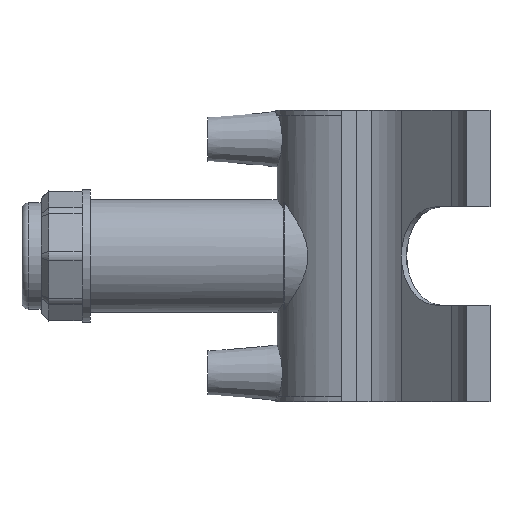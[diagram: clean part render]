
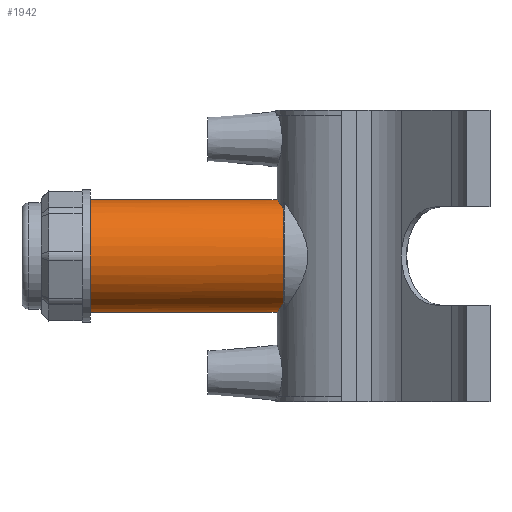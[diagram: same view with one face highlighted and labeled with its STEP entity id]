
A CAD part, left-side view. The second image highlights one B-rep face of the part: STEP entity #1942.
In plain terms, the highlighted cylindrical face has radius 19.324 mm (diameter 38.648 mm), a full revolution.
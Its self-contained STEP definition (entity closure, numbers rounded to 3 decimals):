
#180=FACE_OUTER_BOUND('',#300,.T.);
#300=EDGE_LOOP('',(#1627,#1628,#1629,#1630,#1631,#1632,#1633,#1634,#1635,
#1636,#1637));
#348=B_SPLINE_CURVE_WITH_KNOTS('',3,(#2867,#2868,#2869,#2870,#2871,#2872,
#2873,#2874),.UNSPECIFIED.,.F.,.F.,(4,2,2,4),(1.968,2.296,
2.675,3.054),.UNSPECIFIED.);
#349=B_SPLINE_CURVE_WITH_KNOTS('',3,(#2876,#2877,#2878,#2879,#2880,#2881,
#2882,#2883),.UNSPECIFIED.,.F.,.F.,(4,2,2,4),(3.054,3.433,
3.811,4.14),.UNSPECIFIED.);
#356=B_SPLINE_CURVE_WITH_KNOTS('',3,(#2939,#2940,#2941,#2942,#2943,#2944,
#2945,#2946,#2947,#2948,#2949,#2950,#2951,#2952),.UNSPECIFIED.,.F.,.F.,
(4,2,2,2,2,2,4),(8.075,8.403,8.782,9.161,
9.54,9.919,10.247),.UNSPECIFIED.);
#368=B_SPLINE_CURVE_WITH_KNOTS('',3,(#3448,#3449,#3450,#3451,#3452,#3453,
#3454,#3455,#3456,#3457,#3458,#3459,#3460,#3461,#3462,#3463,#3464,#3465,
#3466,#3467,#3468,#3469,#3470,#3471,#3472,#3473,#3474,#3475,#3476,#3477,
#3478,#3479,#3480,#3481,#3482,#3483,#3484,#3485,#3486,#3487,#3488,#3489,
#3490,#3491,#3492,#3493,#3494),.UNSPECIFIED.,.F.,.F.,(4,2,2,2,2,2,2,2,2,
2,2,2,2,2,2,2,2,2,2,3,2,2,4),(-6.34,-6.199,-5.846,
-5.494,-5.142,-4.789,-4.437,
-4.084,-3.75,-3.416,-3.081,
-2.747,-2.413,-2.078,-1.744,
-1.41,-1.057,-0.705,-0.352,
0.,0.352,0.705,0.846),.UNSPECIFIED.);
#476=LINE('',#3445,#633);
#633=VECTOR('',#2585,19.324);
#717=CIRCLE('',#2061,19.324);
#718=CIRCLE('',#2062,19.324);
#753=CIRCLE('',#2138,19.324);
#754=CIRCLE('',#2140,19.324);
#755=CIRCLE('',#2141,19.324);
#795=VERTEX_POINT('',#2865);
#796=VERTEX_POINT('',#2866);
#797=VERTEX_POINT('',#2875);
#805=VERTEX_POINT('',#2936);
#806=VERTEX_POINT('',#2938);
#859=VERTEX_POINT('',#3250);
#860=VERTEX_POINT('',#3251);
#916=VERTEX_POINT('',#3441);
#917=VERTEX_POINT('',#3447);
#985=EDGE_CURVE('',#795,#796,#348,.T.);
#986=EDGE_CURVE('',#796,#797,#349,.T.);
#995=EDGE_CURVE('',#805,#806,#356,.T.);
#1074=EDGE_CURVE('',#859,#860,#717,.T.);
#1075=EDGE_CURVE('',#860,#859,#718,.T.);
#1168=EDGE_CURVE('',#805,#916,#753,.T.);
#1169=EDGE_CURVE('',#860,#796,#476,.T.);
#1170=EDGE_CURVE('',#795,#806,#754,.T.);
#1171=EDGE_CURVE('',#916,#917,#368,.T.);
#1172=EDGE_CURVE('',#917,#797,#755,.T.);
#1627=ORIENTED_EDGE('',*,*,#1074,.F.);
#1628=ORIENTED_EDGE('',*,*,#1075,.F.);
#1629=ORIENTED_EDGE('',*,*,#1169,.T.);
#1630=ORIENTED_EDGE('',*,*,#985,.F.);
#1631=ORIENTED_EDGE('',*,*,#1170,.T.);
#1632=ORIENTED_EDGE('',*,*,#995,.F.);
#1633=ORIENTED_EDGE('',*,*,#1168,.T.);
#1634=ORIENTED_EDGE('',*,*,#1171,.T.);
#1635=ORIENTED_EDGE('',*,*,#1172,.T.);
#1636=ORIENTED_EDGE('',*,*,#986,.F.);
#1637=ORIENTED_EDGE('',*,*,#1169,.F.);
#1856=CYLINDRICAL_SURFACE('',#2139,19.324);
#1942=ADVANCED_FACE('',(#180),#1856,.T.);
#2061=AXIS2_PLACEMENT_3D('',#3252,#2369,#2370);
#2062=AXIS2_PLACEMENT_3D('',#3253,#2371,#2372);
#2138=AXIS2_PLACEMENT_3D('',#3443,#2581,#2582);
#2139=AXIS2_PLACEMENT_3D('',#3444,#2583,#2584);
#2140=AXIS2_PLACEMENT_3D('',#3446,#2586,#2587);
#2141=AXIS2_PLACEMENT_3D('',#3495,#2588,#2589);
#2369=DIRECTION('center_axis',(0.,1.,0.));
#2370=DIRECTION('ref_axis',(1.,0.,0.));
#2371=DIRECTION('center_axis',(0.,1.,0.));
#2372=DIRECTION('ref_axis',(1.,0.,0.));
#2581=DIRECTION('center_axis',(0.,1.,0.));
#2582=DIRECTION('ref_axis',(1.,0.,0.));
#2583=DIRECTION('center_axis',(0.,1.,0.));
#2584=DIRECTION('ref_axis',(0.,0.,1.));
#2585=DIRECTION('',(0.,-1.,0.));
#2586=DIRECTION('center_axis',(0.,1.,0.));
#2587=DIRECTION('ref_axis',(1.,0.,0.));
#2588=DIRECTION('center_axis',(0.,1.,0.));
#2589=DIRECTION('ref_axis',(1.,0.,0.));
#2865=CARTESIAN_POINT('',(-10.451,25.291,-16.254));
#2866=CARTESIAN_POINT('',(0.,27.365,-19.324));
#2867=CARTESIAN_POINT('Ctrl Pts',(-10.451,25.291,-16.254));
#2868=CARTESIAN_POINT('Ctrl Pts',(-9.537,25.669,-16.842));
#2869=CARTESIAN_POINT('Ctrl Pts',(-8.556,26.015,-17.363));
#2870=CARTESIAN_POINT('Ctrl Pts',(-6.344,26.648,-18.298));
#2871=CARTESIAN_POINT('Ctrl Pts',(-5.095,26.917,-18.685));
#2872=CARTESIAN_POINT('Ctrl Pts',(-2.554,27.276,-19.198));
#2873=CARTESIAN_POINT('Ctrl Pts',(-1.263,27.365,-19.324));
#2874=CARTESIAN_POINT('Ctrl Pts',(0.,27.365,-19.324));
#2875=CARTESIAN_POINT('',(10.451,25.291,-16.254));
#2876=CARTESIAN_POINT('Ctrl Pts',(0.,27.365,-19.324));
#2877=CARTESIAN_POINT('Ctrl Pts',(1.263,27.365,-19.324));
#2878=CARTESIAN_POINT('Ctrl Pts',(2.554,27.276,-19.198));
#2879=CARTESIAN_POINT('Ctrl Pts',(5.095,26.917,-18.685));
#2880=CARTESIAN_POINT('Ctrl Pts',(6.344,26.648,-18.298));
#2881=CARTESIAN_POINT('Ctrl Pts',(8.556,26.015,-17.363));
#2882=CARTESIAN_POINT('Ctrl Pts',(9.537,25.669,-16.842));
#2883=CARTESIAN_POINT('Ctrl Pts',(10.451,25.291,-16.254));
#2936=CARTESIAN_POINT('',(10.451,25.291,16.254));
#2938=CARTESIAN_POINT('',(-10.451,25.291,16.254));
#2939=CARTESIAN_POINT('Ctrl Pts',(10.451,25.291,16.254));
#2940=CARTESIAN_POINT('Ctrl Pts',(9.537,25.669,16.842));
#2941=CARTESIAN_POINT('Ctrl Pts',(8.556,26.015,17.363));
#2942=CARTESIAN_POINT('Ctrl Pts',(6.344,26.648,18.298));
#2943=CARTESIAN_POINT('Ctrl Pts',(5.095,26.917,18.685));
#2944=CARTESIAN_POINT('Ctrl Pts',(2.554,27.276,19.198));
#2945=CARTESIAN_POINT('Ctrl Pts',(1.263,27.365,19.324));
#2946=CARTESIAN_POINT('Ctrl Pts',(-1.263,27.365,19.324));
#2947=CARTESIAN_POINT('Ctrl Pts',(-2.554,27.276,19.198));
#2948=CARTESIAN_POINT('Ctrl Pts',(-5.095,26.917,18.685));
#2949=CARTESIAN_POINT('Ctrl Pts',(-6.344,26.648,18.298));
#2950=CARTESIAN_POINT('Ctrl Pts',(-8.556,26.015,17.363));
#2951=CARTESIAN_POINT('Ctrl Pts',(-9.537,25.669,16.842));
#2952=CARTESIAN_POINT('Ctrl Pts',(-10.451,25.291,16.254));
#3250=CARTESIAN_POINT('',(0.,91.345,19.324));
#3251=CARTESIAN_POINT('',(0.,91.345,-19.324));
#3252=CARTESIAN_POINT('Origin',(0.,91.345,0.));
#3253=CARTESIAN_POINT('Origin',(0.,91.345,0.));
#3441=CARTESIAN_POINT('',(12.467,25.291,14.764));
#3443=CARTESIAN_POINT('Origin',(0.,25.291,0.));
#3444=CARTESIAN_POINT('Origin',(0.,58.318,0.));
#3445=CARTESIAN_POINT('',(0.,58.318,-19.324));
#3446=CARTESIAN_POINT('Origin',(0.,25.291,0.));
#3447=CARTESIAN_POINT('',(12.467,25.291,-14.764));
#3448=CARTESIAN_POINT('Ctrl Pts',(12.467,25.291,14.764));
#3449=CARTESIAN_POINT('Ctrl Pts',(12.232,25.672,14.963));
#3450=CARTESIAN_POINT('Ctrl Pts',(12.002,26.063,15.148));
#3451=CARTESIAN_POINT('Ctrl Pts',(11.229,27.457,15.742));
#3452=CARTESIAN_POINT('Ctrl Pts',(10.736,28.501,16.073));
#3453=CARTESIAN_POINT('Ctrl Pts',(10.023,30.679,16.527));
#3454=CARTESIAN_POINT('Ctrl Pts',(9.808,31.813,16.65));
#3455=CARTESIAN_POINT('Ctrl Pts',(9.808,34.163,16.65));
#3456=CARTESIAN_POINT('Ctrl Pts',(10.023,35.297,16.527));
#3457=CARTESIAN_POINT('Ctrl Pts',(10.736,37.475,16.073));
#3458=CARTESIAN_POINT('Ctrl Pts',(11.229,38.519,15.742));
#3459=CARTESIAN_POINT('Ctrl Pts',(12.332,40.51,14.893));
#3460=CARTESIAN_POINT('Ctrl Pts',(12.942,41.456,14.375));
#3461=CARTESIAN_POINT('Ctrl Pts',(14.157,43.217,13.18));
#3462=CARTESIAN_POINT('Ctrl Pts',(14.762,44.031,12.503));
#3463=CARTESIAN_POINT('Ctrl Pts',(15.855,45.454,11.081));
#3464=CARTESIAN_POINT('Ctrl Pts',(16.387,46.12,10.291));
#3465=CARTESIAN_POINT('Ctrl Pts',(17.363,47.32,8.541));
#3466=CARTESIAN_POINT('Ctrl Pts',(17.808,47.853,7.581));
#3467=CARTESIAN_POINT('Ctrl Pts',(18.544,48.728,5.542));
#3468=CARTESIAN_POINT('Ctrl Pts',(18.836,49.069,4.461));
#3469=CARTESIAN_POINT('Ctrl Pts',(19.226,49.524,2.247));
#3470=CARTESIAN_POINT('Ctrl Pts',(19.324,49.638,1.114));
#3471=CARTESIAN_POINT('Ctrl Pts',(19.324,49.638,-1.114));
#3472=CARTESIAN_POINT('Ctrl Pts',(19.226,49.524,-2.247));
#3473=CARTESIAN_POINT('Ctrl Pts',(18.836,49.069,-4.461));
#3474=CARTESIAN_POINT('Ctrl Pts',(18.544,48.728,-5.542));
#3475=CARTESIAN_POINT('Ctrl Pts',(17.808,47.853,-7.581));
#3476=CARTESIAN_POINT('Ctrl Pts',(17.363,47.32,-8.541));
#3477=CARTESIAN_POINT('Ctrl Pts',(16.387,46.12,-10.291));
#3478=CARTESIAN_POINT('Ctrl Pts',(15.855,45.454,-11.081));
#3479=CARTESIAN_POINT('Ctrl Pts',(14.762,44.031,-12.503));
#3480=CARTESIAN_POINT('Ctrl Pts',(14.157,43.217,-13.18));
#3481=CARTESIAN_POINT('Ctrl Pts',(12.942,41.456,-14.375));
#3482=CARTESIAN_POINT('Ctrl Pts',(12.332,40.51,-14.893));
#3483=CARTESIAN_POINT('Ctrl Pts',(11.229,38.519,-15.742));
#3484=CARTESIAN_POINT('Ctrl Pts',(10.736,37.475,-16.073));
#3485=CARTESIAN_POINT('Ctrl Pts',(10.023,35.297,-16.527));
#3486=CARTESIAN_POINT('Ctrl Pts',(9.808,34.163,-16.65));
#3487=CARTESIAN_POINT('Ctrl Pts',(9.808,32.988,-16.65));
#3488=CARTESIAN_POINT('Ctrl Pts',(9.808,31.813,-16.65));
#3489=CARTESIAN_POINT('Ctrl Pts',(10.023,30.679,-16.527));
#3490=CARTESIAN_POINT('Ctrl Pts',(10.736,28.501,-16.073));
#3491=CARTESIAN_POINT('Ctrl Pts',(11.229,27.457,-15.742));
#3492=CARTESIAN_POINT('Ctrl Pts',(12.002,26.063,-15.148));
#3493=CARTESIAN_POINT('Ctrl Pts',(12.232,25.672,-14.963));
#3494=CARTESIAN_POINT('Ctrl Pts',(12.467,25.291,-14.764));
#3495=CARTESIAN_POINT('Origin',(0.,25.291,0.));
